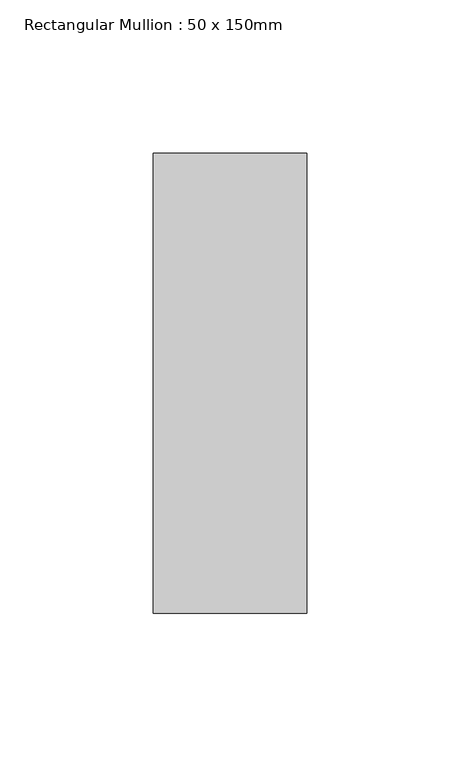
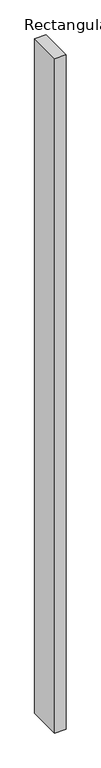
"""IFC4 building model written with IfcOpenShell, lengths in millimetres: member geometry, Rectangular Mullion : 50 x 150mm."""

from ifc_helpers import new_model, si_unit, frame, origin, place, context, project, spatial, polyline, outline, extrude, source, transform, mapped, element, save


def rectangular_mullion_50_x_150mm_58437bb4(model_context):
    return source(origin(), model_context, "Body", "SweptSolid", [
        extrude(outline(polyline([(25.0, 75.0), (25.0, -75.0), (-25.0, -75.0), (-25.0, 75.0), (25.0, 75.0)])), frame((0.0, 0.0, -3087.4038106), z_axis=(0.0, 0.0, 1.0), x_axis=(1.0, 0.0, 0.0)), (0.0, 0.0, 1.0), 3087.4038106),
    ])


if __name__ == "__main__":
    model = new_model("IFC4")
    model_context = context("Model", 3, world=origin())
    ifc_project = project(units=[si_unit("LENGTHUNIT", "METRE", prefix="MILLI")], contexts=[model_context])
    site = spatial("IfcSite", under=ifc_project)
    building = spatial("IfcBuilding", under=site)
    placement = place(None, origin())
    rectangular_mullion_50_x_150mm_shape = rectangular_mullion_50_x_150mm_58437bb4(model_context)
    element("IfcMember", 1, ObjectType="Rectangular Mullion : 50 x 150mm", at=placement, inside=building, context=model_context, shape_type="MappedRepresentation", body=[
        mapped(rectangular_mullion_50_x_150mm_shape, transform((0.0, 0.0, 0.0), x_axis=(1.0, 0.0, 0.0), y_axis=(0.0, 1.0, 0.0), z_axis=(0.0, 0.0, 1.0))),
    ])
    save(model, "model.ifc")
